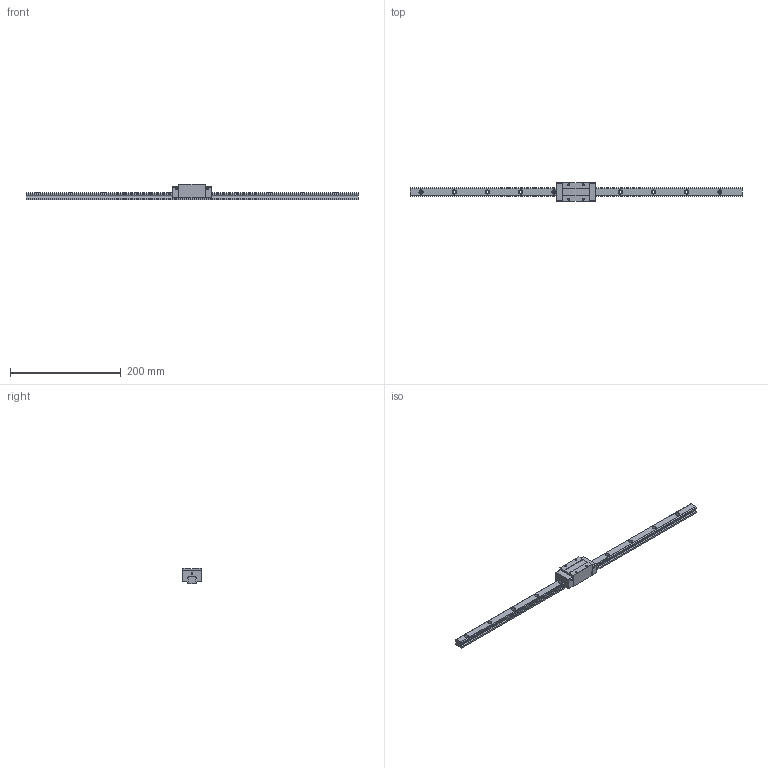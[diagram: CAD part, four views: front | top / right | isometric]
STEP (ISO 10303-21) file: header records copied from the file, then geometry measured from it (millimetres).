
FILE_DESCRIPTION (( 'STEP AP203' ), '1' );
FILE_NAME ('TRH15VL-SU.STEP', '2024-06-26T02:28:26', ( '' ), ( '' ), 'SwSTEP 2.0', 'SolidWorks 2022', '' );
FILE_SCHEMA (( 'CONFIG_CONTROL_DESIGN' ));
Length unit declared in the file: millimetre
Products named in the file (1): TRH15VL-SU
Bounding box: 600 x 34 x 28 mm (x, y, z)
Volume: 146444.7 mm3; surface area: 48594.3 mm2
Topology: 2 solids, 2 shells, 200 faces, 520 edges, 336 vertices
Faces by surface type: cylinder 96, plane 88, cone 16
Entity records: 6223 total; most frequent: DIRECTION 1114, CARTESIAN_POINT 1049, ORIENTED_EDGE 1024, EDGE_CURVE 512, AXIS2_PLACEMENT_3D 401, VERTEX_POINT 336, LINE 312, VECTOR 312
